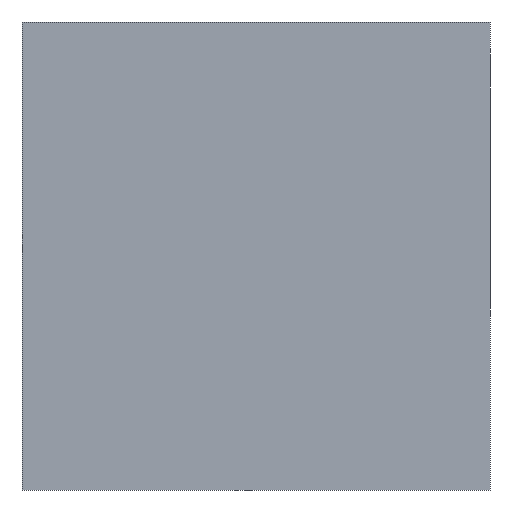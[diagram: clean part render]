
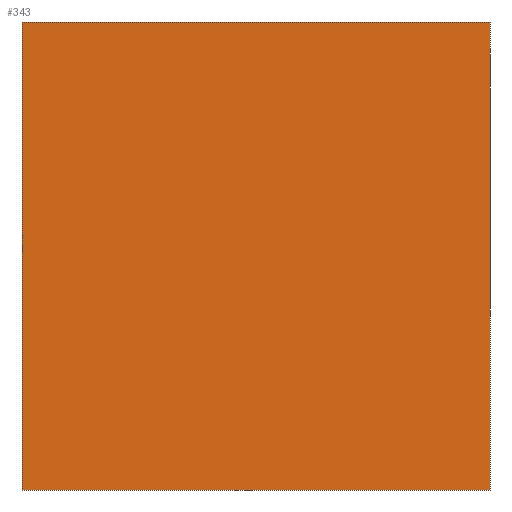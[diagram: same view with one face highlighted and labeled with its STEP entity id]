
A CAD part, front view. The second image highlights one B-rep face of the part: STEP entity #343.
In plain terms, the highlighted planar face has unit normal (0, -1, 0).
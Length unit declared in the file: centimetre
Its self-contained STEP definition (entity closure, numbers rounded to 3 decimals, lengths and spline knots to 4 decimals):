
#16 = CARTESIAN_POINT ( 'NONE',  ( 0., 0., 1000. ) ) ;
#37 = DIRECTION ( 'NONE',  ( 1., 0., 0. ) ) ;
#52 = ORIENTED_EDGE ( 'NONE', *, *, #186, .T. ) ;
#59 = FACE_OUTER_BOUND ( 'NONE', #262, .T. ) ;
#64 = CARTESIAN_POINT ( 'NONE',  ( 1000., 0., 1000. ) ) ;
#103 = PLANE ( 'NONE',  #131 ) ;
#104 = VERTEX_POINT ( 'NONE', #334 ) ;
#114 = CARTESIAN_POINT ( 'NONE',  ( 0., 0., 0. ) ) ;
#116 = DIRECTION ( 'NONE',  ( 0., 0., -1. ) ) ;
#131 = AXIS2_PLACEMENT_3D ( 'NONE', #203, #308, #485 ) ;
#143 = VECTOR ( 'NONE', #116, 100. ) ;
#177 = VECTOR ( 'NONE', #198, 100. ) ;
#186 = EDGE_CURVE ( 'NONE', #443, #452, #327, .T. ) ;
#198 = DIRECTION ( 'NONE',  ( 0., 0., -1. ) ) ;
#203 = CARTESIAN_POINT ( 'NONE',  ( 0., 0., 1000. ) ) ;
#206 = CARTESIAN_POINT ( 'NONE',  ( 0., 0., 1000. ) ) ;
#208 = ORIENTED_EDGE ( 'NONE', *, *, #548, .T. ) ;
#215 = VECTOR ( 'NONE', #274, 100. ) ;
#227 = EDGE_CURVE ( 'NONE', #275, #104, #496, .T. ) ;
#230 = CARTESIAN_POINT ( 'NONE',  ( 0., 0., 0. ) ) ;
#262 = EDGE_LOOP ( 'NONE', ( #208, #350, #436, #52 ) ) ;
#274 = DIRECTION ( 'NONE',  ( 1., 0., 0. ) ) ;
#275 = VERTEX_POINT ( 'NONE', #357 ) ;
#308 = DIRECTION ( 'NONE',  ( 0., 1., 0. ) ) ;
#327 = LINE ( 'NONE', #206, #143 ) ;
#334 = CARTESIAN_POINT ( 'NONE',  ( 1000., 0., 0. ) ) ;
#343 = ADVANCED_FACE ( 'NONE', ( #59 ), #103, .F. ) ;
#350 = ORIENTED_EDGE ( 'NONE', *, *, #227, .F. ) ;
#357 = CARTESIAN_POINT ( 'NONE',  ( 1000., 0., 1000. ) ) ;
#367 = LINE ( 'NONE', #497, #215 ) ;
#386 = EDGE_CURVE ( 'NONE', #443, #275, #367, .T. ) ;
#396 = VECTOR ( 'NONE', #37, 100. ) ;
#423 = LINE ( 'NONE', #114, #396 ) ;
#436 = ORIENTED_EDGE ( 'NONE', *, *, #386, .F. ) ;
#443 = VERTEX_POINT ( 'NONE', #16 ) ;
#452 = VERTEX_POINT ( 'NONE', #230 ) ;
#485 = DIRECTION ( 'NONE',  ( 0., 0., 1. ) ) ;
#496 = LINE ( 'NONE', #64, #177 ) ;
#497 = CARTESIAN_POINT ( 'NONE',  ( 0., 0., 1000. ) ) ;
#548 = EDGE_CURVE ( 'NONE', #452, #104, #423, .T. ) ;
